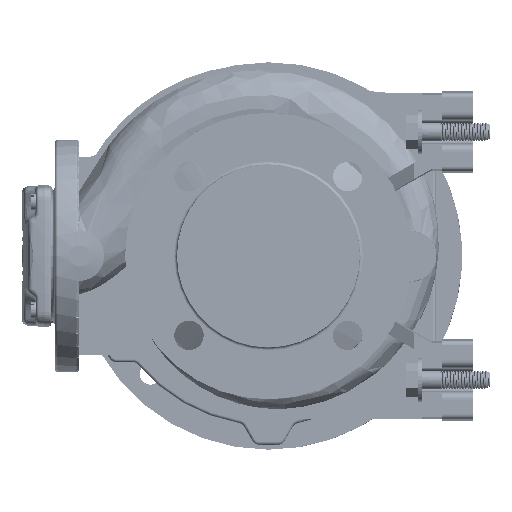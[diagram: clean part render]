
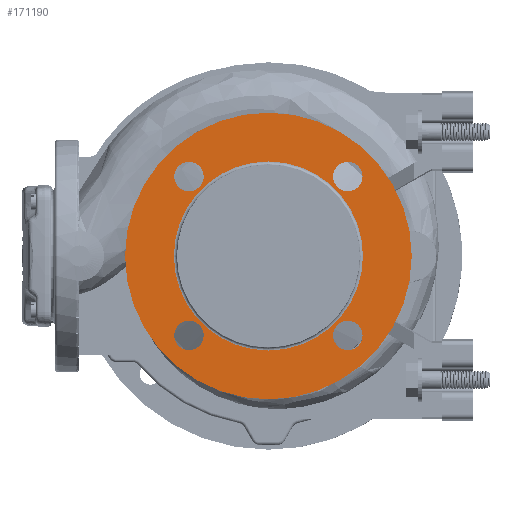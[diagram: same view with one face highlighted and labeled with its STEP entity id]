
A CAD part, left-side view. The second image highlights one B-rep face of the part: STEP entity #171190.
In plain terms, the highlighted planar face has unit normal (-1, 0, 0).
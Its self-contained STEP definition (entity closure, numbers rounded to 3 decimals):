
#446 = DIRECTION ( 'NONE',  ( 0., -1., 0. ) ) ;
#1404 = AXIS2_PLACEMENT_3D ( 'NONE', #14350, #12549, #128746 ) ;
#3281 = DIRECTION ( 'NONE',  ( -1., 0., 0. ) ) ;
#8929 = CIRCLE ( 'NONE', #23810, 92.5 ) ;
#8987 = CIRCLE ( 'NONE', #95167, 61. ) ;
#11129 = DIRECTION ( 'NONE',  ( -1., 0., 0. ) ) ;
#11961 = ORIENTED_EDGE ( 'NONE', *, *, #108909, .F. ) ;
#12328 = EDGE_CURVE ( 'NONE', #78151, #44001, #36337, .T. ) ;
#12549 = DIRECTION ( 'NONE',  ( -1., 0., 0. ) ) ;
#14350 = CARTESIAN_POINT ( 'NONE',  ( -145.172, 220.454, 202.98 ) ) ;
#18368 = ORIENTED_EDGE ( 'NONE', *, *, #25145, .F. ) ;
#20839 = DIRECTION ( 'NONE',  ( 0., 1., 0. ) ) ;
#23810 = AXIS2_PLACEMENT_3D ( 'NONE', #156888, #145688, #99243 ) ;
#24079 = VERTEX_POINT ( 'NONE', #67498 ) ;
#25145 = EDGE_CURVE ( 'NONE', #173857, #36609, #108172, .T. ) ;
#27503 = ORIENTED_EDGE ( 'NONE', *, *, #51939, .F. ) ;
#29732 = AXIS2_PLACEMENT_3D ( 'NONE', #71550, #83644, #180438 ) ;
#30492 = EDGE_LOOP ( 'NONE', ( #155670, #154074 ) ) ;
#36337 = CIRCLE ( 'NONE', #107628, 9.5 ) ;
#36609 = VERTEX_POINT ( 'NONE', #65712 ) ;
#42014 = EDGE_CURVE ( 'NONE', #24079, #57493, #96423, .T. ) ;
#43219 = DIRECTION ( 'NONE',  ( -1., 0., 0. ) ) ;
#43458 = DIRECTION ( 'NONE',  ( -1., 0., 0. ) ) ;
#43698 = CIRCLE ( 'NONE', #97241, 9.5 ) ;
#44001 = VERTEX_POINT ( 'NONE', #54657 ) ;
#44941 = DIRECTION ( 'NONE',  ( -1., 0., 0. ) ) ;
#47084 = AXIS2_PLACEMENT_3D ( 'NONE', #106596, #48969, #104784 ) ;
#48969 = DIRECTION ( 'NONE',  ( 1., 0., 0. ) ) ;
#49629 = CARTESIAN_POINT ( 'NONE',  ( -145.172, 117.924, 202.98 ) ) ;
#49866 = PLANE ( 'NONE',  #47084 ) ;
#51312 = ORIENTED_EDGE ( 'NONE', *, *, #42014, .F. ) ;
#51747 = AXIS2_PLACEMENT_3D ( 'NONE', #120198, #106223, #75573 ) ;
#51939 = EDGE_CURVE ( 'NONE', #36609, #173857, #88775, .T. ) ;
#54657 = CARTESIAN_POINT ( 'NONE',  ( -145.172, 127.424, 305.51 ) ) ;
#57084 = VERTEX_POINT ( 'NONE', #129322 ) ;
#57493 = VERTEX_POINT ( 'NONE', #89044 ) ;
#58683 = CIRCLE ( 'NONE', #162659, 61. ) ;
#60198 = EDGE_LOOP ( 'NONE', ( #27503, #18368 ) ) ;
#65712 = CARTESIAN_POINT ( 'NONE',  ( -145.172, 108.424, 202.98 ) ) ;
#66587 = FACE_BOUND ( 'NONE', #60198, .T. ) ;
#67498 = CARTESIAN_POINT ( 'NONE',  ( -145.172, 210.954, 305.51 ) ) ;
#70449 = EDGE_CURVE ( 'NONE', #57084, #170099, #8929, .T. ) ;
#70598 = AXIS2_PLACEMENT_3D ( 'NONE', #49629, #77554, #20839 ) ;
#71309 = CARTESIAN_POINT ( 'NONE',  ( -145.172, 220.454, 305.51 ) ) ;
#71550 = CARTESIAN_POINT ( 'NONE',  ( -145.172, 117.924, 305.51 ) ) ;
#72726 = CARTESIAN_POINT ( 'NONE',  ( -145.172, 108.189, 254.245 ) ) ;
#75573 = DIRECTION ( 'NONE',  ( 0., 1., 0. ) ) ;
#76888 = ORIENTED_EDGE ( 'NONE', *, *, #174105, .F. ) ;
#77554 = DIRECTION ( 'NONE',  ( -1., 0., 0. ) ) ;
#78151 = VERTEX_POINT ( 'NONE', #130161 ) ;
#80169 = CIRCLE ( 'NONE', #29732, 9.5 ) ;
#83644 = DIRECTION ( 'NONE',  ( -1., 0., 0. ) ) ;
#84275 = EDGE_LOOP ( 'NONE', ( #117002, #109001 ) ) ;
#84301 = VERTEX_POINT ( 'NONE', #72726 ) ;
#86900 = CARTESIAN_POINT ( 'NONE',  ( -145.172, 169.189, 254.245 ) ) ;
#87258 = EDGE_LOOP ( 'NONE', ( #51312, #98872 ) ) ;
#88505 = VERTEX_POINT ( 'NONE', #120450 ) ;
#88775 = CIRCLE ( 'NONE', #70598, 9.5 ) ;
#89044 = CARTESIAN_POINT ( 'NONE',  ( -145.172, 229.954, 305.51 ) ) ;
#89909 = DIRECTION ( 'NONE',  ( 0., -1., 0. ) ) ;
#95167 = AXIS2_PLACEMENT_3D ( 'NONE', #175344, #3281, #130703 ) ;
#96423 = CIRCLE ( 'NONE', #131705, 9.5 ) ;
#97241 = AXIS2_PLACEMENT_3D ( 'NONE', #100720, #145335, #159276 ) ;
#98872 = ORIENTED_EDGE ( 'NONE', *, *, #127865, .F. ) ;
#99243 = DIRECTION ( 'NONE',  ( 0., -1., 0. ) ) ;
#99381 = CIRCLE ( 'NONE', #1404, 9.5 ) ;
#100720 = CARTESIAN_POINT ( 'NONE',  ( -145.172, 220.454, 202.98 ) ) ;
#101970 = CIRCLE ( 'NONE', #128665, 92.5 ) ;
#104784 = DIRECTION ( 'NONE',  ( 0., 1., 0. ) ) ;
#106223 = DIRECTION ( 'NONE',  ( -1., 0., 0. ) ) ;
#106596 = CARTESIAN_POINT ( 'NONE',  ( -145.172, 230.189, 254.245 ) ) ;
#106847 = ORIENTED_EDGE ( 'NONE', *, *, #183835, .F. ) ;
#107628 = AXIS2_PLACEMENT_3D ( 'NONE', #177910, #120256, #163957 ) ;
#108172 = CIRCLE ( 'NONE', #51747, 9.5 ) ;
#108425 = FACE_BOUND ( 'NONE', #84275, .T. ) ;
#108909 = EDGE_CURVE ( 'NONE', #150757, #84301, #58683, .T. ) ;
#109001 = ORIENTED_EDGE ( 'NONE', *, *, #159405, .F. ) ;
#115540 = EDGE_CURVE ( 'NONE', #170099, #57084, #101970, .T. ) ;
#117002 = ORIENTED_EDGE ( 'NONE', *, *, #12328, .F. ) ;
#120198 = CARTESIAN_POINT ( 'NONE',  ( -145.172, 117.924, 202.98 ) ) ;
#120256 = DIRECTION ( 'NONE',  ( -1., 0., 0. ) ) ;
#120450 = CARTESIAN_POINT ( 'NONE',  ( -145.172, 229.954, 202.98 ) ) ;
#127865 = EDGE_CURVE ( 'NONE', #57493, #24079, #139376, .T. ) ;
#128665 = AXIS2_PLACEMENT_3D ( 'NONE', #160595, #43458, #89909 ) ;
#128746 = DIRECTION ( 'NONE',  ( 0., 0., 1. ) ) ;
#129322 = CARTESIAN_POINT ( 'NONE',  ( -145.172, 261.689, 254.245 ) ) ;
#129602 = DIRECTION ( 'NONE',  ( 0., -1., 0. ) ) ;
#130161 = CARTESIAN_POINT ( 'NONE',  ( -145.172, 108.424, 305.51 ) ) ;
#130703 = DIRECTION ( 'NONE',  ( 0., -1., 0. ) ) ;
#131705 = AXIS2_PLACEMENT_3D ( 'NONE', #71309, #11129, #151605 ) ;
#133627 = FACE_BOUND ( 'NONE', #166350, .T. ) ;
#134545 = FACE_BOUND ( 'NONE', #134838, .T. ) ;
#134838 = EDGE_LOOP ( 'NONE', ( #76888, #11961 ) ) ;
#136428 = VERTEX_POINT ( 'NONE', #141058 ) ;
#139376 = CIRCLE ( 'NONE', #166050, 9.5 ) ;
#140117 = CARTESIAN_POINT ( 'NONE',  ( -145.172, 230.189, 254.245 ) ) ;
#141058 = CARTESIAN_POINT ( 'NONE',  ( -145.172, 210.954, 202.98 ) ) ;
#145335 = DIRECTION ( 'NONE',  ( -1., 0., 0. ) ) ;
#145390 = CARTESIAN_POINT ( 'NONE',  ( -145.172, 220.454, 305.51 ) ) ;
#145688 = DIRECTION ( 'NONE',  ( -1., 0., 0. ) ) ;
#150757 = VERTEX_POINT ( 'NONE', #140117 ) ;
#151605 = DIRECTION ( 'NONE',  ( 0., -1., 0. ) ) ;
#154074 = ORIENTED_EDGE ( 'NONE', *, *, #70449, .T. ) ;
#155670 = ORIENTED_EDGE ( 'NONE', *, *, #115540, .T. ) ;
#156888 = CARTESIAN_POINT ( 'NONE',  ( -145.172, 169.189, 254.245 ) ) ;
#159276 = DIRECTION ( 'NONE',  ( 0., 0., 1. ) ) ;
#159405 = EDGE_CURVE ( 'NONE', #44001, #78151, #80169, .T. ) ;
#160595 = CARTESIAN_POINT ( 'NONE',  ( -145.172, 169.189, 254.245 ) ) ;
#162659 = AXIS2_PLACEMENT_3D ( 'NONE', #86900, #43219, #446 ) ;
#163957 = DIRECTION ( 'NONE',  ( 0., 0., -1. ) ) ;
#166050 = AXIS2_PLACEMENT_3D ( 'NONE', #145390, #44941, #129602 ) ;
#166350 = EDGE_LOOP ( 'NONE', ( #106847, #180821 ) ) ;
#167097 = CARTESIAN_POINT ( 'NONE',  ( -145.172, 127.424, 202.98 ) ) ;
#169796 = EDGE_CURVE ( 'NONE', #88505, #136428, #43698, .T. ) ;
#170099 = VERTEX_POINT ( 'NONE', #174147 ) ;
#171190 = ADVANCED_FACE ( 'NONE', ( #108425, #66587, #133627, #180051, #134545, #177322 ), #49866, .F. ) ;
#173857 = VERTEX_POINT ( 'NONE', #167097 ) ;
#174105 = EDGE_CURVE ( 'NONE', #84301, #150757, #8987, .T. ) ;
#174147 = CARTESIAN_POINT ( 'NONE',  ( -145.172, 76.689, 254.245 ) ) ;
#175344 = CARTESIAN_POINT ( 'NONE',  ( -145.172, 169.189, 254.245 ) ) ;
#177322 = FACE_OUTER_BOUND ( 'NONE', #30492, .T. ) ;
#177910 = CARTESIAN_POINT ( 'NONE',  ( -145.172, 117.924, 305.51 ) ) ;
#180051 = FACE_BOUND ( 'NONE', #87258, .T. ) ;
#180438 = DIRECTION ( 'NONE',  ( 0., 0., -1. ) ) ;
#180821 = ORIENTED_EDGE ( 'NONE', *, *, #169796, .F. ) ;
#183835 = EDGE_CURVE ( 'NONE', #136428, #88505, #99381, .T. ) ;
